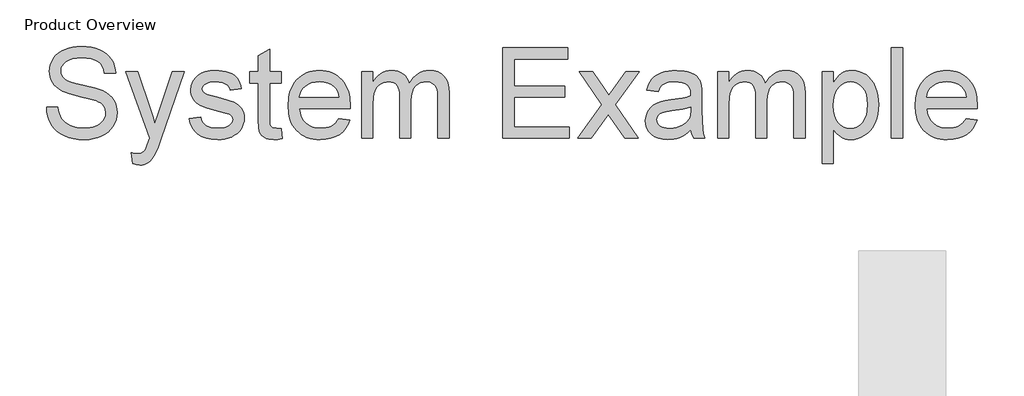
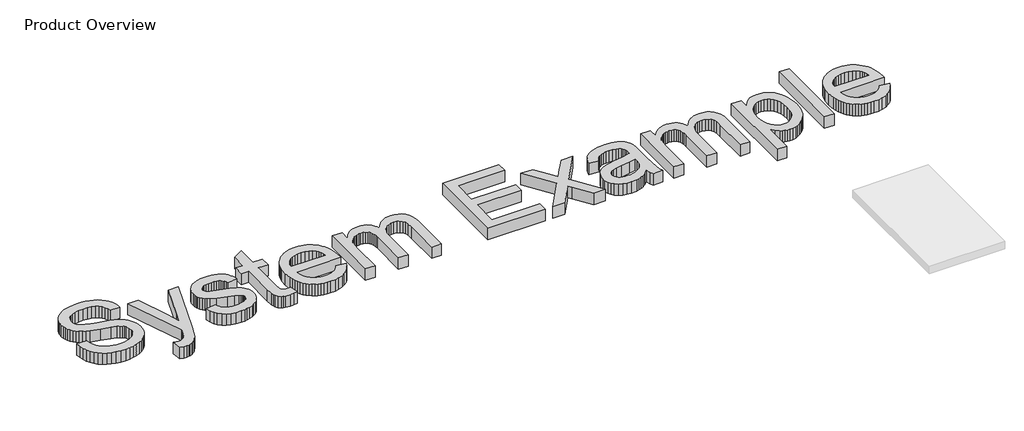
# One storey, part 2 of 12: 1 proxy.
"""IFC4 building model written with IfcOpenShell, lengths in millimetres."""

from ifc_helpers import new_model, si_unit, origin, origin_with_axes, place, context, project, spatial, polyline, outline, extrude, element, save

model = new_model("IFC4")

# Units and contexts
model_context = context("Model", 3, world=origin())
ifc_project = project(units=[si_unit("LENGTHUNIT", "METRE", prefix="MILLI")], contexts=[model_context])

# Site, building, storey
site = spatial("IfcSite", under=ifc_project)
building = spatial("IfcBuilding", under=site)
storey = spatial("IfcBuildingStorey", under=building, Name="Product Overview", Elevation=0.0)

# Proxy
placement = place(None, origin())
element("IfcBuildingElementProxy", 1, Name="1000mm", ObjectType="1000mm", at=placement, inside=storey, context=model_context, shape_type="SweptSolid", body=[
    extrude(outline(polyline([(-16866.6874423, -22458.8725874), (-16744.2631999, -22458.8725874), (-16738.6590628, -22494.507427), (-16730.2154963, -22526.8096731), (-16718.9325003, -22555.7793257), (-16704.8100749, -22581.4163847), (-16687.1308905, -22604.2364309), (-16665.1776175, -22624.7550448), (-16638.950256, -22642.9722263), (-16608.448806, -22658.8879756), (-16574.7940948, -22671.8073796), (-16539.1069499, -22681.0355253), (-16501.3873713, -22686.5724128), (-16461.635359, -22688.4180419), (-16393.4292747, -22682.8288492), (-16362.5093824, -22675.8423583), (-16333.7115901, -22666.0612711), (-16307.745755, -22653.8367801), (-16285.3217345, -22639.5200779), (-16266.4395286, -22623.1111645), (-16251.0991374, -22604.61004), (-16239.225839, -22584.8162279), (-16230.7449116, -22564.5292517), (-16225.6563551, -22543.7491114), (-16223.9601696, -22522.4758071), (-16229.0412539, -22481.4983568), (-16244.2845067, -22446.0802105), (-16257.1067724, -22430.3662101), (-16275.2492321, -22415.8627034), (-16298.711886, -22402.5696902), (-16327.494734, -22390.4871707), (-16392.1440593, -22371.2687166), (-16505.7511261, -22343.7411953), (-16622.7655082, -22312.8063587), (-16665.4690327, -22297.8993541), (-16697.6367795, -22283.3659586), (-16730.3275791, -22263.8635616), (-16758.5799021, -22242.1792872), (-16782.3937486, -22218.3131354), (-16801.7691185, -22192.2651063), (-16816.7807337, -22164.3041984), (-16827.5033159, -22134.6994103), (-16833.9368653, -22103.450742), (-16836.0813817, -22070.5581934), (-16833.4287569, -22034.1014137), (-16825.4708822, -21998.8551276), (-16812.2077578, -21964.8193351), (-16793.6393836, -21931.9940362), (-16769.9749808, -21901.7167517), (-16741.4237705, -21875.3250021), (-16707.9857526, -21852.8187877), (-16669.6609272, -21834.1981082), (-16627.7419819, -21819.6049353), (-16583.5216043, -21809.1812403), (-16536.9997944, -21802.9270233), (-16488.1765522, -21800.8422843), (-16434.9148334, -21803.0241617), (-16384.8810976, -21809.5697938), (-16338.0753448, -21820.4791806), (-16294.4975749, -21835.7523222), (-16254.9547837, -21855.2547192), (-16220.253967, -21878.8518724), (-16190.3951246, -21906.5437817), (-16165.3782567, -21938.3304472), (-16145.39764, -21973.2853182), (-16130.6475512, -22010.481844), (-16121.1279904, -22049.9200246), (-16116.8389575, -22091.5998601), (-16239.2631999, -22091.5998601), (-16247.4527122, -22052.5352886), (-16261.7395257, -22018.5518014), (-16282.1236403, -21989.6493984), (-16308.605056, -21965.8280798), (-16341.6769369, -21947.2074003), (-16381.8324471, -21933.906915), (-16429.0715865, -21925.9266238), (-16483.3943552, -21923.2665268), (-16539.4506703, -21925.8967351), (-16587.3473618, -21933.7873601), (-16627.0844298, -21946.9384018), (-16658.6618742, -21965.3498601), (-16682.7223027, -21987.4824654), (-16699.908323, -22011.7969482), (-16710.2199352, -22038.2933082), (-16713.6571393, -22066.9715457), (-16711.2212077, -22091.6446932), (-16703.913413, -22114.0164084), (-16691.7337551, -22134.0866913), (-16674.682234, -22151.8555419), (-16647.8421535, -22168.6828975), (-16605.5794878, -22185.6895855), (-16547.8942368, -22202.8756058), (-16474.7864007, -22220.2409586), (-16339.8088912, -22253.0587853), (-16292.3156975, -22267.8985403), (-16258.1528779, -22281.6921896), (-16220.6201039, -22302.599357), (-16188.3626909, -22326.106844), (-16161.380639, -22352.2146506), (-16139.673948, -22380.9227768), (-16122.9885639, -22412.0817789), (-16111.0704324, -22445.5422133), (-16103.9195535, -22481.30408), (-16101.5359272, -22519.367379), (-16104.2782183, -22557.6623157), (-16112.5050915, -22594.836425), (-16126.2165469, -22630.8897068), (-16145.4125844, -22665.8221612), (-16169.7569558, -22698.2813232), (-16198.913413, -22726.9147275), (-16232.8819558, -22751.7223743), (-16271.6625844, -22772.7042635), (-16314.126999, -22789.3896476), (-16359.1469002, -22801.3077791), (-16406.7222879, -22808.458658), (-16456.853162, -22810.8422843), (-16519.4775258, -22808.2718535), (-16576.7966398, -22800.5605609), (-16628.810504, -22787.7084065), (-16675.5191185, -22769.7153904), (-16717.2064261, -22746.5516238), (-16754.1563699, -22718.1872181), (-16786.3689498, -22684.6221731), (-16813.8441658, -22645.8564889), (-16835.9767712, -22603.1454922), (-16852.161519, -22557.7445097), (-16862.3984094, -22509.6535414), (-16866.6874423, -22458.8725874)])), origin_with_axes(), (0.0, 0.0, 1.0), 150.0),
    extrude(outline(polyline([(-15933.2025939, -23070.9937995), (-15948.5056242, -22953.1126442), (-15915.1498003, -22961.1826016), (-15886.3370636, -22963.8725874), (-15853.6387918, -22960.4951608), (-15828.2333704, -22950.3628809), (-15808.4470304, -22934.1930774), (-15792.6060029, -22912.7030798), (-15779.0962965, -22881.0808023), (-15759.1306242, -22822.5586669), (-15749.5662302, -22792.9090457), (-16009.7177454, -22076.2968298), (-15880.5984272, -22076.2968298), (-15742.6320446, -22475.6102768), (-15717.2266232, -22553.5600874), (-15694.5709651, -22635.3356556), (-15646.5098855, -22494.2608449), (-15504.7177454, -22076.2968298), (-15376.5548666, -22076.2968298), (-15626.9028779, -22812.7551631), (-15664.0844594, -22910.6706461), (-15691.9407567, -22972.4805419), (-15725.2368031, -23023.4707171), (-15743.5436509, -23043.092669), (-15762.9563817, -23058.7991972), (-15783.8934378, -23070.8294115), (-15806.7732615, -23079.4224216), (-15831.5958526, -23084.5782278), (-15858.3612113, -23086.2968298), (-15893.8092463, -23082.4710722), (-15933.2025939, -23070.9937995)])), origin_with_axes(), (0.0, 0.0, 1.0), 150.0),
    extrude(outline(polyline([(-15321.0813817, -22581.2968298), (-15198.6571393, -22565.9937995), (-15191.2596784, -22593.9098743), (-15179.349019, -22618.3588563), (-15162.9251613, -22639.3407455), (-15141.9881052, -22656.8555419), (-15116.4780733, -22670.6641357), (-15086.335288, -22680.5274169), (-15051.5597494, -22686.4453857), (-15012.1514575, -22688.4180419), (-14972.7879987, -22686.6097737), (-14938.8642889, -22681.184969), (-14910.3803282, -22672.1436279), (-14887.3361166, -22659.4857502), (-14869.5523216, -22644.3919411), (-14856.8496109, -22628.0428052), (-14849.2279845, -22610.4383426), (-14846.6874423, -22591.5785533), (-14849.2429288, -22575.050085), (-14856.9093884, -22560.3747181), (-14869.6868209, -22547.5524524), (-14887.5752264, -22536.5832881), (-14933.4245399, -22521.041148), (-15013.5861166, -22501.6732502), (-15125.3101933, -22469.363532), (-15197.9398098, -22441.7762332), (-15222.8744837, -22427.9452229), (-15244.596119, -22411.678281), (-15263.1047157, -22392.9754076), (-15278.4002738, -22371.8366025), (-15290.3781828, -22348.8970014), (-15298.933832, -22324.7917398), (-15304.0672216, -22299.5208177), (-15305.7783514, -22273.0842351), (-15300.2788249, -22225.6508189), (-15283.7802454, -22181.8638279), (-15257.7770493, -22143.4568085), (-15223.7636734, -22112.1633071), (-15189.9595186, -22092.4666333), (-15145.9334177, -22075.938165), (-15095.0329087, -22064.7298909), (-15040.6055295, -22060.9937995), (-14999.4636912, -22062.4957082), (-14960.9221725, -22067.0014344), (-14924.9809734, -22074.5109781), (-14891.6400939, -22085.0243393), (-14861.6915853, -22098.1006591), (-14835.9274992, -22113.2990788), (-14814.3478353, -22130.6195985), (-14796.9525939, -22150.0622181), (-14782.8451128, -22172.3069061), (-14771.1287302, -22198.0336314), (-14761.8034461, -22227.2423938), (-14754.8692605, -22259.9331934), (-14877.2935029, -22275.2362237), (-14883.1292777, -22254.7848595), (-14892.7459769, -22236.7096494), (-14906.1436006, -22221.0105934), (-14923.3221488, -22207.6876915), (-14944.3563433, -22197.0697198), (-14969.3209059, -22189.4854543), (-14998.2158366, -22184.934895), (-15031.0411355, -22183.4180419), (-15069.1193789, -22184.8676454), (-15101.339431, -22189.2164557), (-15127.7012918, -22196.464473), (-15148.2049613, -22206.6116972), (-15163.5827134, -22218.6867446), (-15174.5668221, -22231.7182313), (-15181.1572873, -22245.7061574), (-15183.354109, -22260.650523), (-15179.7076838, -22279.4804235), (-15168.7684083, -22296.2778904), (-15150.0580626, -22311.2820334), (-15123.0984272, -22323.2973033), (-15017.650984, -22349.3602768), (-14909.4836663, -22381.341219), (-14837.9599329, -22406.9857502), (-14812.7936213, -22419.4941842), (-14790.4966279, -22434.5431603), (-14771.0689528, -22452.1326785), (-14754.5105958, -22472.2627389), (-14741.2773601, -22494.9632301), (-14731.8250489, -22520.264041), (-14726.1536622, -22548.1651714), (-14724.2631999, -22578.6666215), (-14726.4824382, -22609.3025708), (-14733.140153, -22639.0418582), (-14744.2363444, -22667.8844837), (-14759.7710124, -22695.8304472), (-14779.4901027, -22721.7663936), (-14803.1395612, -22744.5789676), (-14830.7193878, -22764.2681692), (-14862.2295825, -22780.8339984), (-14896.8108443, -22793.9626235), (-14933.6038723, -22803.3402128), (-14972.6086663, -22808.9667665), (-15013.8252264, -22810.8422843), (-15079.7149341, -22807.2257479), (-15137.2656857, -22796.3761385), (-15186.4774814, -22778.2934562), (-15227.3503211, -22752.977701), (-15260.7360337, -22720.5484278), (-15287.486448, -22681.1251915), (-15307.601564, -22634.7079922), (-15321.0813817, -22581.2968298)])), origin_with_axes(), (0.0, 0.0, 1.0), 150.0),
    extrude(outline(polyline([(-14326.384412, -22693.4393487), (-14311.0813817, -22799.1259018), (-14359.5609035, -22807.9131887), (-14402.6604537, -22810.8422843), (-14461.421699, -22805.7612001), (-14485.1981845, -22799.4098447), (-14505.2385787, -22790.5179472), (-14536.2033041, -22767.0254046), (-14556.4080863, -22737.196451), (-14562.8939409, -22716.13984), (-14567.5266942, -22685.967166), (-14571.2328969, -22598.273629), (-14571.2328969, -22198.7210722), (-14663.0510787, -22198.7210722), (-14663.0510787, -22076.2968298), (-14571.2328969, -22076.2968298), (-14571.2328969, -21901.5075306), (-14448.8086545, -21829.5354662), (-14448.8086545, -22076.2968298), (-14326.384412, -22076.2968298), (-14326.384412, -22198.7210722), (-14448.8086545, -22198.7210722), (-14448.8086545, -22594.6869813), (-14447.194663, -22634.9769908), (-14442.3526886, -22657.8119813), (-14433.8941777, -22670.4549145), (-14421.4305768, -22680.1687521), (-14403.7663368, -22686.3557195), (-14379.7059083, -22688.4180419), (-14326.384412, -22693.4393487)])), origin_with_axes(), (0.0, 0.0, 1.0), 150.0),
    extrude(outline(polyline([(-13700.3948287, -22581.2968298), (-13580.3616848, -22596.5998601), (-13598.7656709, -22644.675884), (-13623.6106786, -22687.0431603), (-13654.8967078, -22723.7016889), (-13692.6237586, -22754.6514699), (-13736.4032775, -22779.2349512), (-13785.8467108, -22796.7945807), (-13840.9540587, -22807.3303584), (-13901.7253211, -22810.8422843), (-13940.7413234, -22809.3272993), (-13977.6875311, -22804.7823441), (-14012.5639442, -22797.2074188), (-14045.3705626, -22786.6025234), (-14076.1073864, -22772.9676579), (-14104.7744156, -22756.3028223), (-14131.3716501, -22736.6080166), (-14155.8990901, -22713.8832408), (-14177.9233488, -22688.4236461), (-14197.0110396, -22660.5243837), (-14213.1621627, -22630.1854536), (-14226.3767179, -22597.4068558), (-14236.6547053, -22562.1885904), (-14243.9961249, -22524.5306573), (-14249.8692605, -22441.8957881), (-14243.9363474, -22356.4588504), (-14236.520206, -22317.5399865), (-14226.1376081, -22281.1541925), (-14212.7885536, -22247.3014685), (-14196.4730425, -22215.9818144), (-14177.1910749, -22187.1952303), (-14154.9426507, -22160.9417162), (-14130.3292806, -22137.5164232), (-14103.9524755, -22117.2145026), (-14075.8122352, -22100.0359544), (-14045.9085598, -22085.9807787), (-14014.2414492, -22075.0489753), (-13980.8109035, -22067.2405443), (-13945.6169227, -22062.5554857), (-13908.6595067, -22060.9937995), (-13872.9107163, -22062.5517496), (-13838.8319588, -22067.2255999), (-13806.4232341, -22075.0153504), (-13775.6845422, -22085.9210012), (-13746.6158832, -22099.9425522), (-13719.2172571, -22117.0800033), (-13693.4886638, -22137.3333547), (-13669.4301033, -22160.7026063), (-13647.6580308, -22186.896343), (-13628.7889013, -22215.6231496), (-13612.8227147, -22246.8830262), (-13599.7594712, -22280.6759728), (-13589.5991707, -22317.0019893), (-13582.3418132, -22355.8610758), (-13576.5359272, -22441.1784586), (-13577.2532567, -22474.1756177), (-14127.4450181, -22474.1756177), (-14120.3539167, -22523.0287486), (-14106.2539078, -22565.8144671), (-14085.1449915, -22602.5327732), (-14057.0271677, -22633.1836669), (-14023.4546506, -22657.348706), (-13985.981654, -22674.6094482), (-13944.608178, -22684.9658935), (-13899.3342226, -22688.4180419), (-13865.4702904, -22686.8189948), (-13834.1767889, -22682.0218535), (-13805.4537184, -22674.0266179), (-13779.3010787, -22662.8332881), (-13755.7188699, -22648.1429768), (-13734.707092, -22629.6567966), (-13716.2657449, -22607.3747476), (-13700.3948287, -22581.2968298)]), holes=[polyline([(-14127.4450181, -22351.7513752), (-13698.9601696, -22351.7513752), (-13705.2517475, -22317.1103359), (-13715.5185266, -22287.0721612), (-13729.760507, -22261.6368511), (-13747.9776886, -22240.8044056), (-13781.3634011, -22215.6978715), (-13819.3519783, -22197.7646328), (-13861.9434201, -22187.0046896), (-13909.1377264, -22183.4180419), (-13952.1849713, -22186.2798879), (-13991.6605129, -22194.8654259), (-14027.5643511, -22209.1746559), (-14059.8964859, -22229.2075779), (-14087.0279815, -22254.0376412), (-14107.3299021, -22282.7382952), (-14120.8022476, -22315.3095399), (-14127.4450181, -22351.7513752)])]), origin_with_axes(), (0.0, 0.0, 1.0), 150.0),
    extrude(outline(polyline([(-13454.1116848, -22795.539254), (-13454.1116848, -22076.2968298), (-13331.6874423, -22076.2968298), (-13331.6874423, -22194.6562048), (-13314.5910882, -22166.0003839), (-13294.8645257, -22140.288603), (-13272.5077548, -22117.5208621), (-13247.5207757, -22097.6971612), (-13220.307086, -22081.6394405), (-13191.2701838, -22070.1696399), (-13160.410069, -22063.2877596), (-13127.7267416, -22060.9937995), (-13091.9947636, -22063.3325927), (-13059.6402122, -22070.3489723), (-13030.6630875, -22082.0429383), (-13005.0633893, -22098.4144908), (-12982.9158396, -22119.0003543), (-12964.2951601, -22143.3372536), (-12949.201351, -22171.4251886), (-12937.634412, -22203.2641593), (-12916.1070535, -22169.9195437), (-12893.0105366, -22141.0208769), (-12868.3448613, -22116.5681588), (-12842.1100276, -22096.5613895), (-12814.3060355, -22081.0005688), (-12784.932885, -22069.885697), (-12753.9905762, -22063.2167739), (-12721.479109, -22060.9937995), (-12672.4690623, -22064.69253), (-12629.4517061, -22075.7887214), (-12592.4270405, -22094.2823737), (-12561.3950654, -22120.173487), (-12536.8638894, -22153.7609485), (-12519.3416208, -22195.3436456), (-12508.8282597, -22244.9215783), (-12505.323806, -22302.4947465), (-12505.323806, -22795.539254), (-12627.7480484, -22795.539254), (-12627.7480484, -22355.0989131), (-12630.5874779, -22294.0362356), (-12639.1057662, -22252.8794529), (-12655.0663486, -22224.6943795), (-12680.2326601, -22202.5468298), (-12712.6021559, -22188.2002389), (-12750.1722908, -22183.4180419), (-12784.8656354, -22186.4816368), (-12816.495385, -22195.6724216), (-12845.0615398, -22210.9903963), (-12870.5640995, -22232.4355609), (-12891.5385166, -22260.6355786), (-12906.520243, -22296.2181129), (-12915.5092789, -22339.1831638), (-12918.5056242, -22389.5307313), (-12918.5056242, -22795.539254), (-13040.9298666, -22795.539254), (-13040.9298666, -22341.4696518), (-13042.7007739, -22304.3777365), (-13048.0134958, -22272.2473506), (-13056.8680324, -22245.0784941), (-13069.2643836, -22222.8711669), (-13085.6957135, -22205.6104247), (-13106.6551862, -22193.2813232), (-13132.1428016, -22185.8838622), (-13162.1585598, -22183.4180419), (-13186.2040439, -22185.0619221), (-13209.3229774, -22189.9935627), (-13231.5153602, -22198.2129638), (-13252.7811923, -22209.7201252), (-13272.1490901, -22224.3954922), (-13288.6476696, -22242.1195097), (-13302.276931, -22262.8921778), (-13313.0368742, -22286.7134965), (-13321.1964977, -22314.8537368), (-13327.0248003, -22348.5831698), (-13331.6874423, -22432.8096139), (-13331.6874423, -22795.539254), (-13454.1116848, -22795.539254)])), origin_with_axes(), (0.0, 0.0, 1.0), 150.0),
    extrude(outline(polyline([(-11923.8086545, -22795.539254), (-11923.8086545, -21816.1453146), (-11219.8692605, -21816.1453146), (-11219.8692605, -21938.5695571), (-11801.384412, -21938.5695571), (-11801.384412, -22229.3271328), (-11250.4753211, -22229.3271328), (-11250.4753211, -22351.7513752), (-11801.384412, -22351.7513752), (-11801.384412, -22673.1150116), (-11204.5662302, -22673.1150116), (-11204.5662302, -22795.539254), (-11923.8086545, -22795.539254)])), origin_with_axes(), (0.0, 0.0, 1.0), 150.0),
    extrude(outline(polyline([(-11112.7480484, -22795.539254), (-10851.1618742, -22434.0051631), (-11097.4450181, -22076.2968298), (-10950.1533514, -22076.2968298), (-10831.3157567, -22248.4559207), (-10775.8422719, -22329.7532692), (-10727.7811923, -22263.2807313), (-10592.4450181, -22076.2968298), (-10445.1533514, -22076.2968298), (-10703.8702075, -22434.0051631), (-10454.7177454, -22795.539254), (-10602.009412, -22795.539254), (-10751.931287, -22578.1884018), (-10779.4289196, -22538.4961669), (-10965.4563817, -22795.539254), (-11112.7480484, -22795.539254)])), origin_with_axes(), (0.0, 0.0, 1.0), 150.0),
    extrude(outline(polyline([(-9888.5056242, -22703.7210722), (-9917.5350542, -22730.9646506), (-9946.9978708, -22753.8743629), (-9976.8940741, -22772.4502093), (-10007.2236639, -22786.6921896), (-10038.3303608, -22797.2578561), (-10070.557885, -22804.8047607), (-10138.3754158, -22810.8422843), (-10192.8849891, -22807.2108035), (-10240.6845422, -22796.316361), (-10281.7740753, -22778.1589569), (-10316.1535882, -22752.7385912), (-10343.3000282, -22721.6692552), (-10362.6903424, -22686.5649406), (-10374.324531, -22647.4256473), (-10378.2025939, -22604.2513752), (-10372.3444026, -22553.5003099), (-10354.7698287, -22507.4118866), (-10327.6607496, -22467.9587616), (-10293.1990427, -22437.1135912), (-10252.6998121, -22413.8003809), (-10207.478162, -22396.9431366), (-10163.4221725, -22387.5580751), (-10101.5524992, -22378.5316783), (-9976.3784935, -22359.1637806), (-9928.0484154, -22348.224505), (-9889.2229537, -22336.4483449), (-9888.5056242, -22309.1898222), (-9890.6127797, -22279.5103123), (-9896.9342463, -22254.5532218), (-9907.470024, -22234.3185509), (-9922.2201128, -22218.8062995), (-9947.7152004, -22203.3239368), (-9978.769592, -22192.2651063), (-10015.3832875, -22185.629808), (-10057.556287, -22183.4180419), (-10096.7703022, -22184.8900619), (-10130.4847908, -22189.3061219), (-10158.6997529, -22196.666222), (-10181.4151886, -22206.970362), (-10200.0807011, -22221.0255378), (-10216.145894, -22239.638745), (-10229.6107674, -22262.8099838), (-10240.4753211, -22290.539254), (-10362.8995636, -22275.2362237), (-10353.5817516, -22239.9675211), (-10341.6486758, -22208.2854662), (-10327.1003359, -22180.190059), (-10309.9367321, -22155.6812995), (-10289.4181182, -22134.2660237), (-10264.8047482, -22115.4510675), (-10236.096622, -22099.2364309), (-10203.2937397, -22085.6221139), (-10167.0611255, -22074.8472263), (-10128.0638036, -22067.1508781), (-10086.3017741, -22062.5330691), (-10041.775037, -22060.9937995), (-9959.0131407, -22066.4335485), (-9924.0657419, -22073.2332349), (-9893.4073761, -22082.7527957), (-9843.9415261, -22107.2914439), (-9824.8799879, -22121.645507), (-9809.5993742, -22137.3893961), (-9786.8241611, -22174.6008663), (-9772.0591279, -22220.4800684), (-9767.5758183, -22262.8025116), (-9766.0813817, -22327.6012806), (-9766.0813817, -22479.914254), (-9764.5271677, -22612.5903312), (-9759.8645257, -22692.6024643), (-9750.6587965, -22745.1767422), (-9735.4753211, -22795.539254), (-9857.8995636, -22795.539254), (-9877.5065711, -22752.977701), (-9888.5056242, -22703.7210722)]), holes=[polyline([(-9888.5056242, -22458.8725874), (-9970.759412, -22479.256702), (-10086.010359, -22496.4128336), (-10149.5239125, -22505.7978951), (-10191.3382473, -22516.258951), (-10218.7462136, -22529.8284349), (-10239.040662, -22548.5387806), (-10251.5939291, -22570.9553288), (-10255.7783514, -22595.6434207), (-10253.4993357, -22614.667598), (-10246.6622885, -22632.0478951), (-10235.2672097, -22647.784312), (-10219.3140995, -22661.8768487), (-10198.9524015, -22673.4886207), (-10174.3315593, -22681.7827436), (-10145.4515729, -22686.7592173), (-10112.3124423, -22688.4180419), (-10078.4783988, -22686.5873571), (-10046.557234, -22681.0953028), (-10016.548948, -22671.9418789), (-9988.4535408, -22659.1270855), (-9963.1078969, -22643.7119724), (-9941.3489007, -22626.7575897), (-9923.1765522, -22608.2639374), (-9908.5908514, -22588.2310154), (-9900.1173962, -22570.2977768), (-9894.0649281, -22548.5387806), (-9889.2229537, -22493.5435154), (-9888.5056242, -22458.8725874)])]), origin_with_axes(), (0.0, 0.0, 1.0), 150.0),
    extrude(outline(polyline([(-9597.7480484, -22795.539254), (-9597.7480484, -22076.2968298), (-9475.323806, -22076.2968298), (-9475.323806, -22194.6562048), (-9458.2274518, -22166.0003839), (-9438.5008893, -22140.288603), (-9416.1441185, -22117.5208621), (-9391.1571393, -22097.6971612), (-9363.9434497, -22081.6394405), (-9334.9065475, -22070.1696399), (-9304.0464326, -22063.2877596), (-9271.3631052, -22060.9937995), (-9235.6311272, -22063.3325927), (-9203.2765759, -22070.3489723), (-9174.2994511, -22082.0429383), (-9148.6997529, -22098.4144908), (-9126.5522032, -22119.0003543), (-9107.9315238, -22143.3372536), (-9092.8377146, -22171.4251886), (-9081.2707757, -22203.2641593), (-9059.7434171, -22169.9195437), (-9036.6469002, -22141.0208769), (-9011.9812249, -22116.5681588), (-8985.7463912, -22096.5613895), (-8957.9423991, -22081.0005688), (-8928.5692487, -22069.885697), (-8897.6269399, -22063.2167739), (-8865.1154726, -22060.9937995), (-8816.1054259, -22064.69253), (-8773.0880697, -22075.7887214), (-8736.0634041, -22094.2823737), (-8705.0314291, -22120.173487), (-8680.5002531, -22153.7609485), (-8662.9779845, -22195.3436456), (-8652.4646233, -22244.9215783), (-8648.9601696, -22302.4947465), (-8648.9601696, -22795.539254), (-8771.384412, -22795.539254), (-8771.384412, -22355.0989131), (-8774.2238415, -22294.0362356), (-8782.7421298, -22252.8794529), (-8798.7027122, -22224.6943795), (-8823.8690238, -22202.5468298), (-8856.2385195, -22188.2002389), (-8893.8086545, -22183.4180419), (-8928.501999, -22186.4816368), (-8960.1317487, -22195.6724216), (-8988.6979034, -22210.9903963), (-9014.2004632, -22232.4355609), (-9035.1748802, -22260.6355786), (-9050.1566066, -22296.2181129), (-9059.1456425, -22339.1831638), (-9062.1419878, -22389.5307313), (-9062.1419878, -22795.539254), (-9184.5662302, -22795.539254), (-9184.5662302, -22341.4696518), (-9186.3371375, -22304.3777365), (-9191.6498595, -22272.2473506), (-9200.5043961, -22245.0784941), (-9212.9007473, -22222.8711669), (-9229.3320772, -22205.6104247), (-9250.2915498, -22193.2813232), (-9275.7791652, -22185.8838622), (-9305.7949234, -22183.4180419), (-9329.8404075, -22185.0619221), (-9352.959341, -22189.9935627), (-9375.1517238, -22198.2129638), (-9396.417556, -22209.7201252), (-9415.7854537, -22224.3954922), (-9432.2840333, -22242.1195097), (-9445.9132946, -22262.8921778), (-9456.6732378, -22286.7134965), (-9464.8328614, -22314.8537368), (-9470.6611639, -22348.5831698), (-9475.323806, -22432.8096139), (-9475.323806, -22795.539254), (-9597.7480484, -22795.539254)])), origin_with_axes(), (0.0, 0.0, 1.0), 150.0),
    extrude(outline(polyline([(-8465.323806, -23070.9937995), (-8465.323806, -22076.2968298), (-8342.8995636, -22076.2968298), (-8342.8995636, -22196.3299737), (-8323.5316658, -22164.6105579), (-8302.9682189, -22137.1203975), (-8281.2092226, -22113.8594926), (-8258.2546772, -22094.8278431), (-8233.4470304, -22080.025449), (-8206.1287302, -22069.4523104), (-8176.2997766, -22063.1084272), (-8143.9601696, -22060.9937995), (-8101.2641173, -22063.9527839), (-8061.1683846, -22072.829737), (-8023.6729715, -22087.6246589), (-7988.7778779, -22108.3375495), (-7957.2452667, -22134.4304117), (-7929.8373003, -22165.3652484), (-7906.5539788, -22201.1420594), (-7887.3953022, -22241.7608449), (-7872.4359923, -22285.8317789), (-7861.7507709, -22331.9650353), (-7855.3396381, -22380.1606141), (-7853.2025939, -22430.4185154), (-7855.6161089, -22484.1509817), (-7862.856654, -22535.1187403), (-7874.9242292, -22583.3217913), (-7891.8188344, -22628.7601347), (-7913.308832, -22670.2456934), (-7939.1625844, -22706.5903904), (-7969.3800915, -22737.7942256), (-8003.9613533, -22763.8571991), (-8041.2101844, -22784.4131739), (-8079.4303993, -22799.096013), (-8118.6219979, -22807.9057165), (-8158.7849802, -22810.8422843), (-8187.679911, -22808.8771003), (-8215.0654608, -22802.9815481), (-8240.9416297, -22793.1556277), (-8265.3084177, -22779.3993393), (-8308.3183017, -22743.8018606), (-8342.8995636, -22699.8953146), (-8342.8995636, -23070.9937995), (-8465.323806, -23070.9937995)]), holes=[polyline([(-8342.8995636, -22441.6566783), (-8339.5893866, -22500.6570334), (-8329.6588557, -22551.4080987), (-8313.1079709, -22593.9098743), (-8289.9367321, -22628.1623601), (-8262.0430739, -22654.5242209), (-8231.3249305, -22673.3541215), (-8197.7823021, -22684.6520618), (-8161.4151886, -22688.4180419), (-8124.5250222, -22684.5175625), (-8090.3696748, -22672.8161243), (-8058.9491463, -22653.3137273), (-8030.2634367, -22626.0103715), (-8006.359924, -22590.5175033), (-7989.2859864, -22546.4465694), (-7979.0416238, -22493.7975696), (-7975.6268363, -22432.570504), (-7978.9594298, -22374.0782574), (-7988.9572103, -22323.4168582), (-8005.6201779, -22280.5863066), (-8028.9483325, -22245.5866025), (-8056.9092404, -22218.3878573), (-8087.4704679, -22198.9601821), (-8120.632015, -22187.303577), (-8156.3938817, -22183.4180419), (-8192.0436657, -22187.550159), (-8225.5862941, -22199.9465102), (-8257.021767, -22220.6070955), (-8286.3500844, -22249.531915), (-8311.0904815, -22286.3324151), (-8328.7621938, -22330.6200424), (-8339.3652211, -22382.3947968), (-8342.8995636, -22441.6566783)])]), origin_with_axes(), (0.0, 0.0, 1.0), 150.0),
    extrude(outline(polyline([(-7715.4753211, -22795.539254), (-7715.4753211, -21816.1453146), (-7593.0510787, -21816.1453146), (-7593.0510787, -22795.539254), (-7715.4753211, -22795.539254)])), origin_with_axes(), (0.0, 0.0, 1.0), 150.0),
    extrude(outline(polyline([(-6905.8493742, -22581.2968298), (-6785.8162302, -22596.5998601), (-6804.2202164, -22644.675884), (-6829.0652241, -22687.0431603), (-6860.3512533, -22723.7016889), (-6898.0783041, -22754.6514699), (-6941.8578229, -22779.2349512), (-6991.3012563, -22796.7945807), (-7046.4086042, -22807.3303584), (-7107.1798666, -22810.8422843), (-7146.1958689, -22809.3272993), (-7183.1420766, -22804.7823441), (-7218.0184896, -22797.2074188), (-7250.8251081, -22786.6025234), (-7281.5619319, -22772.9676579), (-7310.228961, -22756.3028223), (-7336.8261956, -22736.6080166), (-7361.3536355, -22713.8832408), (-7383.3778942, -22688.4236461), (-7402.4655851, -22660.5243837), (-7418.6167081, -22630.1854536), (-7431.8312634, -22597.4068558), (-7442.1092508, -22562.1885904), (-7449.4506703, -22524.5306573), (-7455.323806, -22441.8957881), (-7449.3908929, -22356.4588504), (-7441.9747515, -22317.5399865), (-7431.5921535, -22281.1541925), (-7418.243099, -22247.3014685), (-7401.9275879, -22215.9818144), (-7382.6456203, -22187.1952303), (-7360.3971961, -22160.9417162), (-7335.7838261, -22137.5164232), (-7309.4070209, -22117.2145026), (-7281.2667806, -22100.0359544), (-7251.3631052, -22085.9807787), (-7219.6959947, -22075.0489753), (-7186.265449, -22067.2405443), (-7151.0714681, -22062.5554857), (-7114.1140522, -22060.9937995), (-7078.3652618, -22062.5517496), (-7044.2865042, -22067.2255999), (-7011.8777796, -22075.0153504), (-6981.1390877, -22085.9210012), (-6952.0704287, -22099.9425522), (-6924.6718025, -22117.0800033), (-6898.9432092, -22137.3333547), (-6874.8846488, -22160.7026063), (-6853.1125762, -22186.896343), (-6834.2434467, -22215.6231496), (-6818.2772602, -22246.8830262), (-6805.2140167, -22280.6759728), (-6795.0537162, -22317.0019893), (-6787.7963587, -22355.8610758), (-6781.9904726, -22441.1784586), (-6782.7078022, -22474.1756177), (-7332.8995636, -22474.1756177), (-7325.8084621, -22523.0287486), (-7311.7084532, -22565.8144671), (-7290.5995369, -22602.5327732), (-7262.4817132, -22633.1836669), (-7228.909196, -22657.348706), (-7191.4361994, -22674.6094482), (-7150.0627235, -22684.9658935), (-7104.7887681, -22688.4180419), (-7070.9248358, -22686.8189948), (-7039.6313344, -22682.0218535), (-7010.9082638, -22674.0266179), (-6984.7556242, -22662.8332881), (-6961.1734154, -22648.1429768), (-6940.1616374, -22629.6567966), (-6921.7202904, -22607.3747476), (-6905.8493742, -22581.2968298)]), holes=[polyline([(-7332.8995636, -22351.7513752), (-6904.4147151, -22351.7513752), (-6910.706293, -22317.1103359), (-6920.9730721, -22287.0721612), (-6935.2150524, -22261.6368511), (-6953.432234, -22240.8044056), (-6986.8179466, -22215.6978715), (-7024.8065238, -22197.7646328), (-7067.3979655, -22187.0046896), (-7114.5922719, -22183.4180419), (-7157.6395168, -22186.2798879), (-7197.1150583, -22194.8654259), (-7233.0188965, -22209.1746559), (-7265.3510314, -22229.2075779), (-7292.482527, -22254.0376412), (-7312.7844475, -22282.7382952), (-7326.2567931, -22315.3095399), (-7332.8995636, -22351.7513752)])]), origin_with_axes(), (0.0, 0.0, 1.0), 150.0),
])

save(model, "model.ifc")
